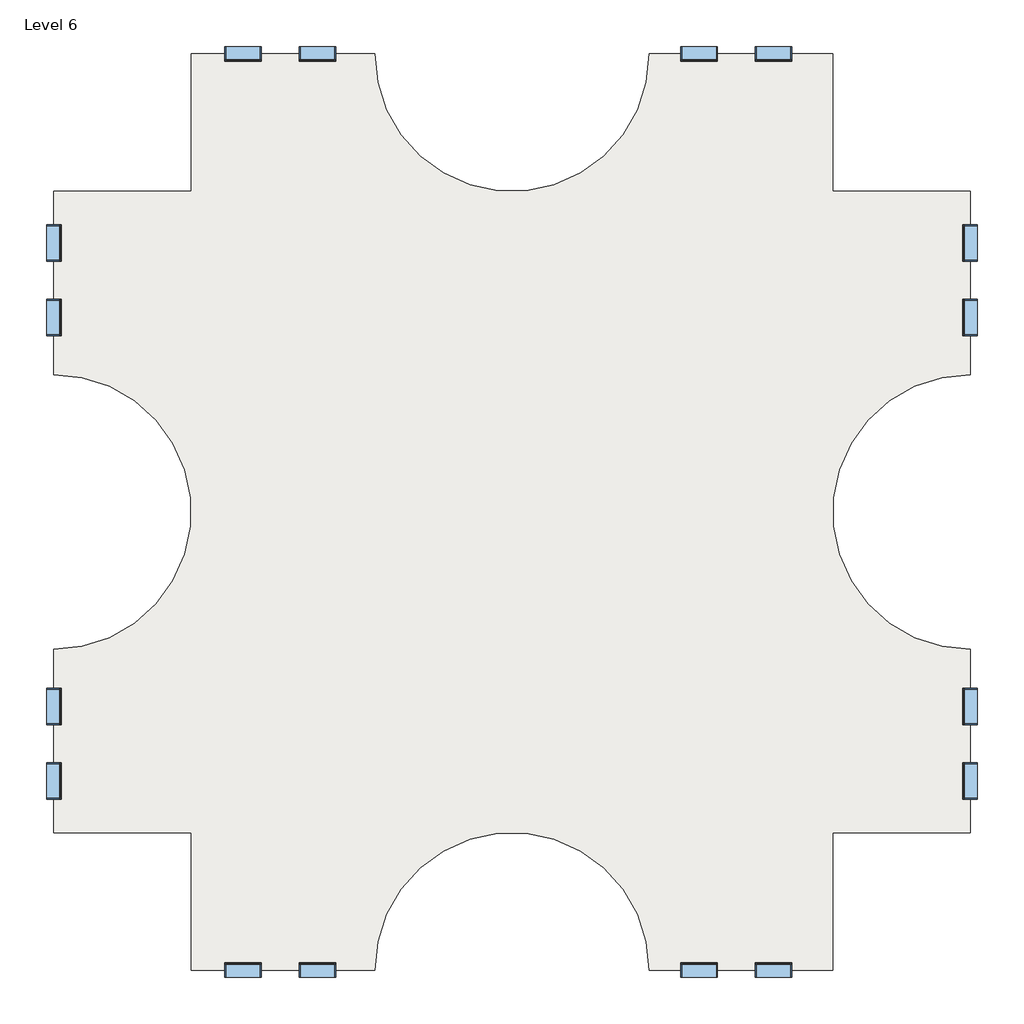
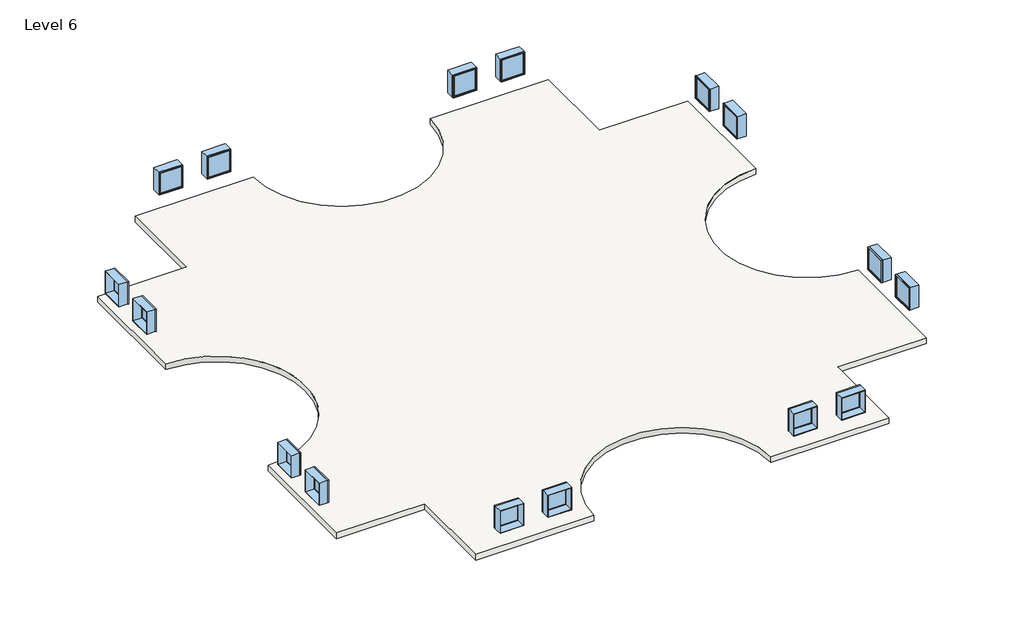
# One storey: 16 windows, 2 slabs.
"""IFC4 building model written with IfcOpenShell, lengths in millimetres."""

from ifc_helpers import new_model, si_unit, point, frame, frame_2d, origin, place, context, project, spatial, polyline, circle_curve, trimmed, segment, composite_curve, outline, extrude, transform, mapped, element, save
from components import window_d0035ecf, window_d434eb62

model = new_model("IFC4")

# Units and contexts
model_context = context("Model", 3, world=origin())
ifc_project = project(units=[si_unit("LENGTHUNIT", "METRE", prefix="MILLI")], contexts=[model_context])

# Site, building, storey
site = spatial("IfcSite", under=ifc_project)
building = spatial("IfcBuilding", under=site)
storey = spatial("IfcBuildingStorey", under=building, Name="Level 6", Elevation=15240.0)

# Slabs
placement = place(None, origin())
element("IfcSlab", 1, ObjectType="Generic - 12\"", at=placement, inside=storey, context=model_context, shape_type="SweptSolid", body=[
    extrude(outline(composite_curve([segment(polyline([(-7150.3629456, 4479.6634547), (-7150.3629456, 9051.6634547), (-1054.3629456, 9051.6634547)]), True, "CONTINUOUS"), segment(trimmed(circle_curve(frame_2d((3517.6370544, 9051.6634547)), 4572.0), [point((-1054.3629456, 9051.6634547))], [point((8089.6370544, 9051.6634547))], True, "CARTESIAN"), True, "CONTINUOUS"), segment(polyline([(8089.6370544, 9051.6634547), (14185.6370544, 9051.6634547), (14185.6370544, 4479.6634547), (18757.6370544, 4479.6634547), (18757.6370544, -1616.3365453)]), True, "CONTINUOUS"), segment(trimmed(circle_curve(frame_2d((18757.6370544, -6188.3365453)), 4572.0), [point((18757.6370544, -1616.3365453))], [point((18757.6370544, -10760.3365453))], True, "CARTESIAN"), True, "CONTINUOUS"), segment(polyline([(18757.6370544, -10760.3365453), (18757.6370544, -16856.3365453), (14185.6370544, -16856.3365453), (14185.6370544, -21428.3365453), (8089.6370544, -21428.3365453)]), True, "CONTINUOUS"), segment(trimmed(circle_curve(frame_2d((3517.6370544, -21428.3365453)), 4572.0), [point((8089.6370544, -21428.3365453))], [point((-1054.3629456, -21428.3365453))], True, "CARTESIAN"), True, "CONTINUOUS"), segment(polyline([(-1054.3629456, -21428.3365453), (-7150.3629456, -21428.3365453), (-7150.3629456, -16856.3365453), (-11722.3629456, -16856.3365453), (-11722.3629456, -10760.3365453)]), True, "CONTINUOUS"), segment(trimmed(circle_curve(frame_2d((-11722.3629456, -6188.3365453)), 4572.0), [point((-11722.3629456, -10760.3365453))], [point((-11722.3629456, -1616.3365453))], True, "CARTESIAN"), True, "CONTINUOUS"), segment(polyline([(-11722.3629456, -1616.3365453), (-11722.3629456, 4479.6634547), (-7150.3629456, 4479.6634547)]), True, "CONTINUOUS")], self_intersect=False)), frame((0.0, 0.0, 14935.2), z_axis=(0.0, 0.0, 1.0), x_axis=(1.0, 0.0, 0.0)), (0.0, 0.0, 1.0), 304.8),
])
element("IfcSlab", 2, ObjectType="Generic - 12\"", at=placement, inside=storey, context=model_context, shape_type="SweptSolid", body=[
    extrude(outline(composite_curve([segment(polyline([(-7150.3629456, 4479.6634547), (-7150.3629456, 9051.6634547), (-1054.3629456, 9051.6634547)]), True, "CONTINUOUS"), segment(trimmed(circle_curve(frame_2d((3517.6370544, 9051.6634547)), 4572.0), [point((-1054.3629456, 9051.6634547))], [point((8089.6370544, 9051.6634547))], True, "CARTESIAN"), True, "CONTINUOUS"), segment(polyline([(8089.6370544, 9051.6634547), (14185.6370544, 9051.6634547), (14185.6370544, 4479.6634547), (18757.6370544, 4479.6634547), (18757.6370544, -1616.3365453)]), True, "CONTINUOUS"), segment(trimmed(circle_curve(frame_2d((18757.6370544, -6188.3365453)), 4572.0), [point((18757.6370544, -1616.3365453))], [point((18757.6370544, -10760.3365453))], True, "CARTESIAN"), True, "CONTINUOUS"), segment(polyline([(18757.6370544, -10760.3365453), (18757.6370544, -16856.3365453), (14185.6370544, -16856.3365453), (14185.6370544, -21428.3365453), (8089.6370544, -21428.3365453)]), True, "CONTINUOUS"), segment(trimmed(circle_curve(frame_2d((3517.6370544, -21428.3365453)), 4572.0), [point((8089.6370544, -21428.3365453))], [point((-1054.3629456, -21428.3365453))], True, "CARTESIAN"), True, "CONTINUOUS"), segment(polyline([(-1054.3629456, -21428.3365453), (-7150.3629456, -21428.3365453), (-7150.3629456, -16856.3365453), (-11722.3629456, -16856.3365453), (-11722.3629456, -10760.3365453)]), True, "CONTINUOUS"), segment(trimmed(circle_curve(frame_2d((-11722.3629456, -6188.3365453)), 4572.0), [point((-11722.3629456, -10760.3365453))], [point((-11722.3629456, -1616.3365453))], True, "CARTESIAN"), True, "CONTINUOUS"), segment(polyline([(-11722.3629456, -1616.3365453), (-11722.3629456, 4479.6634547), (-7150.3629456, 4479.6634547)]), True, "CONTINUOUS")], self_intersect=False)), frame((0.0, 0.0, 14935.2), z_axis=(0.0, 0.0, 1.0), x_axis=(1.0, 0.0, 0.0)), (0.0, 0.0, 1.0), 304.8),
])

# Windows
window_shape = window_d0035ecf(model_context)
element("IfcWindow", 3, ObjectType="Fixed : 48\" x 48\"", at=placement, inside=storey, context=model_context, shape_type="MappedRepresentation", body=[
    mapped(window_shape, transform((-11719.1879456, 247.3884547, 15240.0), x_axis=(0.0, -1.0, 0.0), y_axis=(1.0, 0.0, 0.0), z_axis=(0.0, 0.0, 1.0))),
])
element("IfcWindow", 4, ObjectType="Fixed : 48\" x 48\"", at=placement, inside=storey, context=model_context, shape_type="MappedRepresentation", body=[
    mapped(window_shape, transform((-5469.1993281, 9048.4884547, 15240.0), x_axis=(-1.0, 0.0, 0.0), y_axis=(0.0, -1.0, 0.0), z_axis=(0.0, 0.0, 1.0))),
])
element("IfcWindow", 5, ObjectType="Fixed : 48\" x 48\"", at=placement, inside=storey, context=model_context, shape_type="MappedRepresentation", body=[
    mapped(window_shape, transform((-11719.1879456, -15175.1729277, 15240.0), x_axis=(0.0, -1.0, 0.0), y_axis=(1.0, 0.0, 0.0), z_axis=(0.0, 0.0, 1.0))),
])
element("IfcWindow", 6, ObjectType="Fixed : 48\" x 48\"", at=placement, inside=storey, context=model_context, shape_type="MappedRepresentation", body=[
    mapped(window_shape, transform((-2918.0879456, -21425.1615453, 15240.0), x_axis=(1.0, 0.0, 0.0), y_axis=(0.0, 1.0, 0.0), z_axis=(0.0, 0.0, 1.0))),
])
element("IfcWindow", 7, ObjectType="Fixed : 48\" x 48\"", at=placement, inside=storey, context=model_context, shape_type="MappedRepresentation", body=[
    mapped(window_shape, transform((18754.4620544, 2798.4998372, 15240.0), x_axis=(0.0, 1.0, 0.0), y_axis=(-1.0, 0.0, 0.0), z_axis=(0.0, 0.0, 1.0))),
])
element("IfcWindow", 8, ObjectType="Fixed : 48\" x 48\"", at=placement, inside=storey, context=model_context, shape_type="MappedRepresentation", body=[
    mapped(window_shape, transform((9705.7120544, 9048.4884547, 15240.0), x_axis=(-1.0, 0.0, 0.0), y_axis=(0.0, -1.0, 0.0), z_axis=(0.0, 0.0, 1.0))),
])
element("IfcWindow", 9, ObjectType="Fixed : 48\" x 48\"", at=placement, inside=storey, context=model_context, shape_type="MappedRepresentation", body=[
    mapped(window_shape, transform((18754.4620544, -12624.0615453, 15240.0), x_axis=(0.0, 1.0, 0.0), y_axis=(-1.0, 0.0, 0.0), z_axis=(0.0, 0.0, 1.0))),
])
element("IfcWindow", 10, ObjectType="Fixed : 48\" x 48\"", at=placement, inside=storey, context=model_context, shape_type="MappedRepresentation", body=[
    mapped(window_shape, transform((12256.8234368, -21425.1615453, 15240.0), x_axis=(1.0, 0.0, 0.0), y_axis=(0.0, 1.0, 0.0), z_axis=(0.0, 0.0, 1.0))),
])
window_2_shape = window_d434eb62(model_context)
element("IfcWindow", 11, ObjectType="Fixed : 48\" x 48\"", at=placement, inside=storey, context=model_context, shape_type="MappedRepresentation", body=[
    mapped(window_2_shape, transform((-11719.1879456, 2798.4998372, 15240.0), x_axis=(0.0, 1.0, 0.0), y_axis=(-1.0, 0.0, 0.0), z_axis=(0.0, 0.0, 1.0))),
])
element("IfcWindow", 12, ObjectType="Fixed : 48\" x 48\"", at=placement, inside=storey, context=model_context, shape_type="MappedRepresentation", body=[
    mapped(window_2_shape, transform((-2918.0879456, 9048.4884547, 15240.0), x_axis=(1.0, 0.0, 0.0), y_axis=(0.0, 1.0, 0.0), z_axis=(0.0, 0.0, 1.0))),
])
element("IfcWindow", 13, ObjectType="Fixed : 48\" x 48\"", at=placement, inside=storey, context=model_context, shape_type="MappedRepresentation", body=[
    mapped(window_2_shape, transform((-11719.1879456, -12624.0615453, 15240.0), x_axis=(0.0, 1.0, 0.0), y_axis=(-1.0, 0.0, 0.0), z_axis=(0.0, 0.0, 1.0))),
])
element("IfcWindow", 14, ObjectType="Fixed : 48\" x 48\"", at=placement, inside=storey, context=model_context, shape_type="MappedRepresentation", body=[
    mapped(window_2_shape, transform((-5469.1993281, -21425.1615453, 15240.0), x_axis=(-1.0, 0.0, 0.0), y_axis=(0.0, -1.0, 0.0), z_axis=(0.0, 0.0, 1.0))),
])
element("IfcWindow", 15, ObjectType="Fixed : 48\" x 48\"", at=placement, inside=storey, context=model_context, shape_type="MappedRepresentation", body=[
    mapped(window_2_shape, transform((18754.4620544, 247.3884547, 15240.0), x_axis=(0.0, -1.0, 0.0), y_axis=(1.0, 0.0, 0.0), z_axis=(0.0, 0.0, 1.0))),
])
element("IfcWindow", 16, ObjectType="Fixed : 48\" x 48\"", at=placement, inside=storey, context=model_context, shape_type="MappedRepresentation", body=[
    mapped(window_2_shape, transform((12256.8234368, 9048.4884547, 15240.0), x_axis=(1.0, 0.0, 0.0), y_axis=(0.0, 1.0, 0.0), z_axis=(0.0, 0.0, 1.0))),
])
element("IfcWindow", 17, ObjectType="Fixed : 48\" x 48\"", at=placement, inside=storey, context=model_context, shape_type="MappedRepresentation", body=[
    mapped(window_2_shape, transform((18754.4620544, -15175.1729277, 15240.0), x_axis=(0.0, -1.0, 0.0), y_axis=(1.0, 0.0, 0.0), z_axis=(0.0, 0.0, 1.0))),
])
element("IfcWindow", 18, ObjectType="Fixed : 48\" x 48\"", at=placement, inside=storey, context=model_context, shape_type="MappedRepresentation", body=[
    mapped(window_2_shape, transform((9705.7120544, -21425.1615453, 15240.0), x_axis=(-1.0, 0.0, 0.0), y_axis=(0.0, -1.0, 0.0), z_axis=(0.0, 0.0, 1.0))),
])

save(model, "model.ifc")
